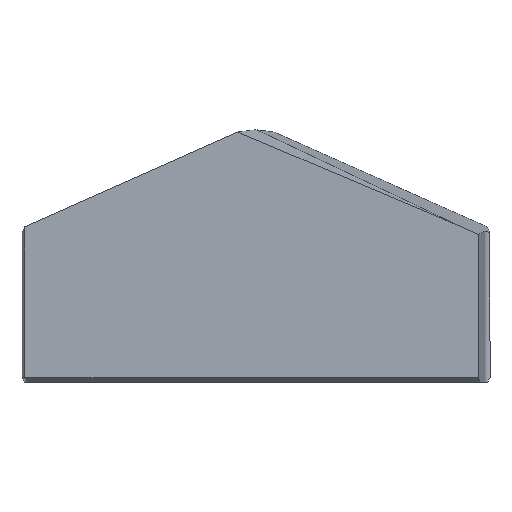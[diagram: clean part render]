
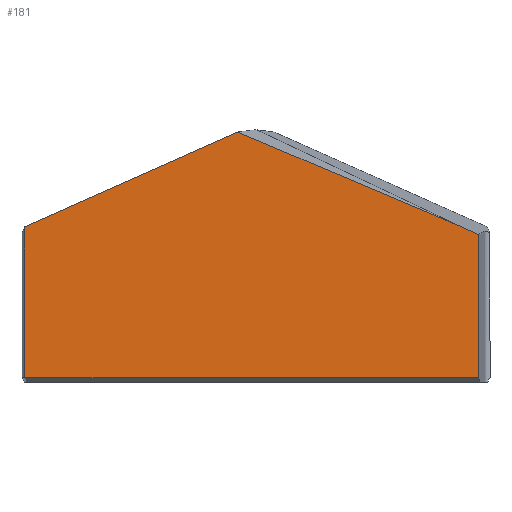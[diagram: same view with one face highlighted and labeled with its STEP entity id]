
A CAD part, top view. The second image highlights one B-rep face of the part: STEP entity #181.
In plain terms, the highlighted planar face has unit normal (0, 0, 1).
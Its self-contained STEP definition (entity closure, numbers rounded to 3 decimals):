
#16 = CARTESIAN_POINT ( 'NONE',  ( -14.888, 0., 4.8 ) ) ;
#39 = CARTESIAN_POINT ( 'NONE',  ( -14.881, 0.289, 4.8 ) ) ;
#54 = VERTEX_POINT ( 'NONE', #39 ) ;
#57 = VECTOR ( 'NONE', #367, 1000. ) ;
#60 = VERTEX_POINT ( 'NONE', #568 ) ;
#67 = VECTOR ( 'NONE', #239, 1000. ) ;
#73 = VERTEX_POINT ( 'NONE', #260 ) ;
#82 = LINE ( 'NONE', #352, #296 ) ;
#91 = DIRECTION ( 'NONE',  ( 0., 0., 1. ) ) ;
#103 = ORIENTED_EDGE ( 'NONE', *, *, #451, .T. ) ;
#120 = DIRECTION ( 'NONE',  ( -0.914, 0.407, 0. ) ) ;
#134 = PLANE ( 'NONE',  #255 ) ;
#145 = EDGE_CURVE ( 'NONE', #492, #60, #82, .T. ) ;
#163 = DIRECTION ( 'NONE',  ( 0., 1., 0. ) ) ;
#167 = VECTOR ( 'NONE', #402, 1000. ) ;
#172 = LINE ( 'NONE', #373, #57 ) ;
#179 = DIRECTION ( 'NONE',  ( -0.914, -0.407, 0. ) ) ;
#181 = ADVANCED_FACE ( 'NONE', ( #317 ), #134, .T. ) ;
#182 = ORIENTED_EDGE ( 'NONE', *, *, #217, .T. ) ;
#188 = VERTEX_POINT ( 'NONE', #528 ) ;
#193 = VECTOR ( 'NONE', #163, 1000. ) ;
#200 = LINE ( 'NONE', #16, #67 ) ;
#202 = ORIENTED_EDGE ( 'NONE', *, *, #145, .T. ) ;
#217 = EDGE_CURVE ( 'NONE', #188, #54, #432, .T. ) ;
#220 = VERTEX_POINT ( 'NONE', #401 ) ;
#225 = CARTESIAN_POINT ( 'NONE',  ( -14.886, 0.296, 4.8 ) ) ;
#239 = DIRECTION ( 'NONE',  ( 0., 1., 0. ) ) ;
#254 = VECTOR ( 'NONE', #120, 1000. ) ;
#255 = AXIS2_PLACEMENT_3D ( 'NONE', #310, #91, #488 ) ;
#258 = EDGE_LOOP ( 'NONE', ( #103, #390, #202, #407, #182, #500, #421 ) ) ;
#260 = CARTESIAN_POINT ( 'NONE',  ( 13.093, 10.052, 4.8 ) ) ;
#269 = CARTESIAN_POINT ( 'NONE',  ( 14.712, 0.289, 4.8 ) ) ;
#275 = CARTESIAN_POINT ( 'NONE',  ( -14.881, 0.289, 4.8 ) ) ;
#296 = VECTOR ( 'NONE', #179, 1000. ) ;
#309 = EDGE_CURVE ( 'NONE', #54, #220, #476, .T. ) ;
#310 = CARTESIAN_POINT ( 'NONE',  ( 0., 0., 4.8 ) ) ;
#313 = VERTEX_POINT ( 'NONE', #404 ) ;
#317 = FACE_OUTER_BOUND ( 'NONE', #258, .T. ) ;
#318 = LINE ( 'NONE', #506, #193 ) ;
#331 = EDGE_CURVE ( 'NONE', #188, #60, #200, .T. ) ;
#352 = CARTESIAN_POINT ( 'NONE',  ( 0., 16.62, 4.8 ) ) ;
#354 = CARTESIAN_POINT ( 'NONE',  ( -14.888, 0.3, 4.8 ) ) ;
#367 = DIRECTION ( 'NONE',  ( -0.921, 0.39, 0. ) ) ;
#373 = CARTESIAN_POINT ( 'NONE',  ( 5.609, 13.226, 4.8 ) ) ;
#390 = ORIENTED_EDGE ( 'NONE', *, *, #484, .T. ) ;
#393 = CARTESIAN_POINT ( 'NONE',  ( -14.883, 0.292, 4.8 ) ) ;
#401 = CARTESIAN_POINT ( 'NONE',  ( 14.33, 0.289, 4.8 ) ) ;
#402 = DIRECTION ( 'NONE',  ( 1., 0., 0. ) ) ;
#404 = CARTESIAN_POINT ( 'NONE',  ( 14.33, 9.501, 4.8 ) ) ;
#407 = ORIENTED_EDGE ( 'NONE', *, *, #331, .F. ) ;
#416 = CARTESIAN_POINT ( 'NONE',  ( 5.901, 13.254, 4.8 ) ) ;
#421 = ORIENTED_EDGE ( 'NONE', *, *, #496, .T. ) ;
#432 = B_SPLINE_CURVE_WITH_KNOTS ( 'NONE', 3,
 ( #354, #225, #393, #275 ),
 .UNSPECIFIED., .F., .F.,
 ( 4, 4 ),
 ( 0., 0. ),
 .UNSPECIFIED. ) ;
#451 = EDGE_CURVE ( 'NONE', #313, #73, #566, .T. ) ;
#476 = LINE ( 'NONE', #269, #167 ) ;
#484 = EDGE_CURVE ( 'NONE', #73, #492, #172, .T. ) ;
#488 = DIRECTION ( 'NONE',  ( 1., 0., 0. ) ) ;
#492 = VERTEX_POINT ( 'NONE', #507 ) ;
#496 = EDGE_CURVE ( 'NONE', #220, #313, #318, .T. ) ;
#500 = ORIENTED_EDGE ( 'NONE', *, *, #309, .T. ) ;
#506 = CARTESIAN_POINT ( 'NONE',  ( 14.33, 0., 4.8 ) ) ;
#507 = CARTESIAN_POINT ( 'NONE',  ( -1.168, 16.1, 4.8 ) ) ;
#528 = CARTESIAN_POINT ( 'NONE',  ( -14.888, 0.3, 4.8 ) ) ;
#566 = LINE ( 'NONE', #416, #254 ) ;
#568 = CARTESIAN_POINT ( 'NONE',  ( -14.888, 9.992, 4.8 ) ) ;
